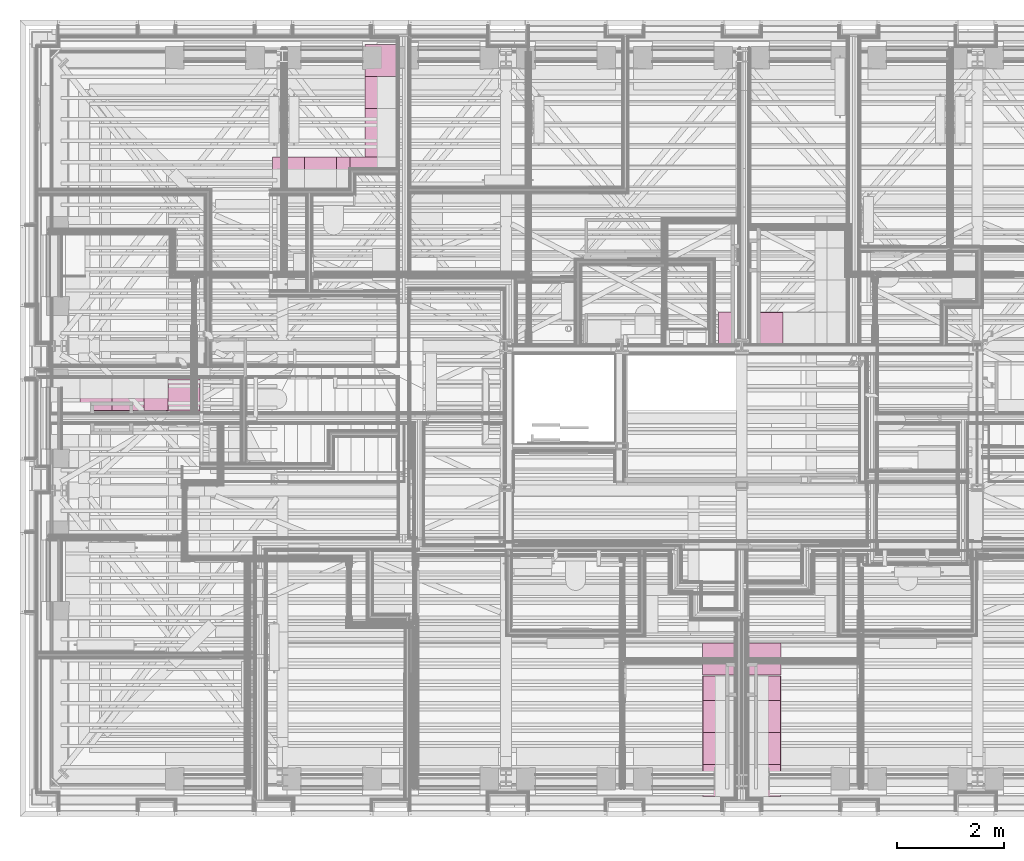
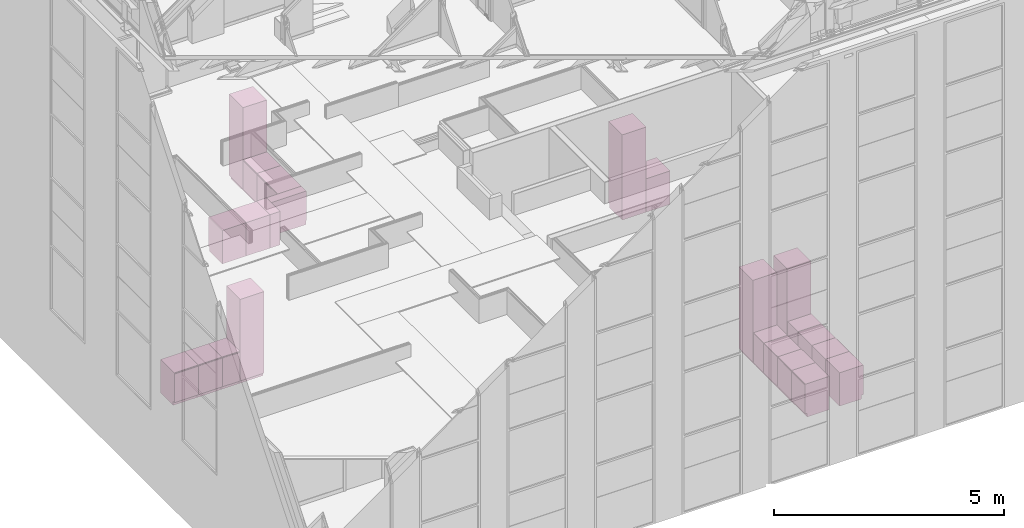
# One storey, part 181 of 183: 23 furnishings.
"""IFC2X3 building model written with IfcOpenShell, lengths in metres."""

from ifc_helpers import new_model, entity, si_unit, converted_unit, derived_unit, money_unit, direction, frame, origin_with_axes, place, context, subcontext, project, spatial, faceted_brep, material, type_object, element, save


model = new_model("IFC2X3")

# Units and contexts
model_context = context("Model", 3, precision=1e-05, world=origin_with_axes(), true_north=direction((0.0, 1.0)))
body_context = subcontext(model_context, "Body", "Model", "MODEL_VIEW", scale=1.0)
ifc_project = project(units=[si_unit("LENGTHUNIT", "METRE"), si_unit("AREAUNIT", "SQUARE_METRE"), si_unit("VOLUMEUNIT", "CUBIC_METRE"), si_unit("ABSORBEDDOSEUNIT", "GRAY"), si_unit("AMOUNTOFSUBSTANCEUNIT", "MOLE"), si_unit("DOSEEQUIVALENTUNIT", "SIEVERT"), si_unit("ELECTRICCAPACITANCEUNIT", "FARAD"), si_unit("ELECTRICCHARGEUNIT", "COULOMB"), si_unit("ELECTRICCONDUCTANCEUNIT", "SIEMENS"), si_unit("ELECTRICCURRENTUNIT", "AMPERE"), si_unit("ELECTRICRESISTANCEUNIT", "OHM"), si_unit("ELECTRICVOLTAGEUNIT", "VOLT"), si_unit("ENERGYUNIT", "JOULE"), si_unit("FORCEUNIT", "NEWTON"), si_unit("FREQUENCYUNIT", "HERTZ"), si_unit("ILLUMINANCEUNIT", "LUX"), si_unit("INDUCTANCEUNIT", "HENRY"), si_unit("LUMINOUSFLUXUNIT", "LUMEN"), si_unit("LUMINOUSINTENSITYUNIT", "CANDELA"), si_unit("MAGNETICFLUXDENSITYUNIT", "TESLA"), si_unit("MAGNETICFLUXUNIT", "WEBER"), si_unit("MASSUNIT", "GRAM"), converted_unit("PLANEANGLEUNIT", "degree", entity("IfcReal", 0.0174532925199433), si_unit("PLANEANGLEUNIT", "RADIAN"), dimensions=[0, 0, 0, 0, 0, 0, 0]), si_unit("POWERUNIT", "WATT"), si_unit("PRESSUREUNIT", "PASCAL"), si_unit("RADIOACTIVITYUNIT", "BECQUEREL"), si_unit("SOLIDANGLEUNIT", "STERADIAN"), si_unit("THERMODYNAMICTEMPERATUREUNIT", "KELVIN"), si_unit("TIMEUNIT", "SECOND"), derived_unit("ACCELERATIONUNIT", [(si_unit("LENGTHUNIT", "METRE"), 1), (si_unit("TIMEUNIT", "SECOND"), -2)]), derived_unit("ANGULARVELOCITYUNIT", [(converted_unit("PLANEANGLEUNIT", "degree", entity("IfcReal", 0.0174532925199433), si_unit("PLANEANGLEUNIT", "RADIAN"), dimensions=[0, 0, 0, 0, 0, 0, 0]), 1), (si_unit("TIMEUNIT", "SECOND"), -1)]), derived_unit("CURVATUREUNIT", [(converted_unit("PLANEANGLEUNIT", "degree", entity("IfcReal", 0.0174532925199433), si_unit("PLANEANGLEUNIT", "RADIAN"), dimensions=[0, 0, 0, 0, 0, 0, 0]), 1), (si_unit("LENGTHUNIT", "METRE"), -1)]), derived_unit("DYNAMICVISCOSITYUNIT", [(si_unit("PRESSUREUNIT", "PASCAL"), 1), (si_unit("TIMEUNIT", "SECOND"), 1)]), derived_unit("HEATFLUXDENSITYUNIT", [(si_unit("POWERUNIT", "WATT"), 1), (si_unit("LENGTHUNIT", "METRE"), -2)]), derived_unit("HEATINGVALUEUNIT", [(si_unit("ENERGYUNIT", "JOULE"), 1), (si_unit("MASSUNIT", "GRAM"), -1)]), derived_unit("INTEGERCOUNTRATEUNIT", [(si_unit("TIMEUNIT", "SECOND"), -1)]), derived_unit("IONCONCENTRATIONUNIT", [(si_unit("MASSUNIT", "GRAM"), 1), (si_unit("VOLUMEUNIT", "CUBIC_METRE"), -1)]), derived_unit("ISOTHERMALMOISTURECAPACITYUNIT", [(si_unit("VOLUMEUNIT", "CUBIC_METRE"), 1), (si_unit("MASSUNIT", "GRAM"), -1)]), derived_unit("KINEMATICVISCOSITYUNIT", [(si_unit("AREAUNIT", "SQUARE_METRE"), 1), (si_unit("TIMEUNIT", "SECOND"), -1)]), derived_unit("LINEARFORCEUNIT", [(si_unit("FORCEUNIT", "NEWTON"), 1), (si_unit("LENGTHUNIT", "METRE"), -1)]), derived_unit("LINEARMOMENTUNIT", [(si_unit("FORCEUNIT", "NEWTON"), 1), (si_unit("LENGTHUNIT", "METRE"), -1)]), derived_unit("LINEARSTIFFNESSUNIT", [(si_unit("FORCEUNIT", "NEWTON"), 1), (si_unit("LENGTHUNIT", "METRE"), -1)]), derived_unit("LINEARVELOCITYUNIT", [(si_unit("LENGTHUNIT", "METRE"), 1), (si_unit("TIMEUNIT", "SECOND"), -1)]), derived_unit("LUMINOUSINTENSITYDISTRIBUTIONUNIT", [(si_unit("LUMINOUSINTENSITYUNIT", "CANDELA"), 1), (si_unit("LUMINOUSFLUXUNIT", "LUMEN"), -1)]), derived_unit("MASSDENSITYUNIT", [(si_unit("MASSUNIT", "GRAM"), 1), (si_unit("VOLUMEUNIT", "CUBIC_METRE"), -1)]), derived_unit("MASSFLOWRATEUNIT", [(si_unit("MASSUNIT", "GRAM"), 1), (si_unit("TIMEUNIT", "SECOND"), -1)]), derived_unit("MASSPERLENGTHUNIT", [(si_unit("MASSUNIT", "GRAM"), 1), (si_unit("LENGTHUNIT", "METRE"), -1)]), derived_unit("MODULUSOFELASTICITYUNIT", [(si_unit("FORCEUNIT", "NEWTON"), 1), (si_unit("AREAUNIT", "SQUARE_METRE"), -1)]), derived_unit("MODULUSOFLINEARSUBGRADEREACTIONUNIT", [(si_unit("FORCEUNIT", "NEWTON"), 1), (si_unit("LENGTHUNIT", "METRE"), -2)]), derived_unit("MODULUSOFROTATIONALSUBGRADEREACTIONUNIT", [(si_unit("FORCEUNIT", "NEWTON"), 1), (si_unit("LENGTHUNIT", "METRE"), 1)]), derived_unit("MODULUSOFSUBGRADEREACTIONUNIT", [(si_unit("FORCEUNIT", "NEWTON"), 1), (si_unit("VOLUMEUNIT", "CUBIC_METRE"), -1)]), derived_unit("MOISTUREDIFFUSIVITYUNIT", [(si_unit("VOLUMEUNIT", "CUBIC_METRE"), 1), (si_unit("TIMEUNIT", "SECOND"), -1)]), derived_unit("MOLECULARWEIGHTUNIT", [(si_unit("MASSUNIT", "GRAM"), 1), (si_unit("AMOUNTOFSUBSTANCEUNIT", "MOLE"), -1)]), derived_unit("PLANARFORCEUNIT", [(si_unit("FORCEUNIT", "NEWTON"), 1), (si_unit("LENGTHUNIT", "METRE"), -2)]), derived_unit("ROTATIONALFREQUENCYUNIT", [(si_unit("TIMEUNIT", "SECOND"), -1)]), derived_unit("ROTATIONALMASSUNIT", [(si_unit("MASSUNIT", "GRAM"), 1), (si_unit("LENGTHUNIT", "METRE"), 2)]), derived_unit("ROTATIONALSTIFFNESSUNIT", [(si_unit("FORCEUNIT", "NEWTON"), 1), (si_unit("LENGTHUNIT", "METRE"), 1), (converted_unit("PLANEANGLEUNIT", "degree", entity("IfcReal", 0.0174532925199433), si_unit("PLANEANGLEUNIT", "RADIAN"), dimensions=[0, 0, 0, 0, 0, 0, 0]), -1)]), derived_unit("SECTIONAREAINTEGRALUNIT", [(si_unit("LENGTHUNIT", "METRE"), 5)]), derived_unit("SECTIONMODULUSUNIT", [(si_unit("LENGTHUNIT", "METRE"), 3)]), derived_unit("SHEARMODULUSUNIT", [(si_unit("FORCEUNIT", "NEWTON"), 1), (si_unit("AREAUNIT", "SQUARE_METRE"), -1)]), derived_unit("SOUNDPOWERUNIT", [(si_unit("ENERGYUNIT", "JOULE"), 1), (si_unit("TIMEUNIT", "SECOND"), -1)]), derived_unit("SPECIFICHEATCAPACITYUNIT", [(si_unit("FORCEUNIT", "NEWTON"), 1), (si_unit("MASSUNIT", "GRAM"), -1), (si_unit("THERMODYNAMICTEMPERATUREUNIT", "KELVIN"), -1)]), derived_unit("TEMPERATUREGRADIENTUNIT", [(si_unit("THERMODYNAMICTEMPERATUREUNIT", "KELVIN"), 1), (si_unit("LENGTHUNIT", "METRE"), -1)]), derived_unit("THERMALADMITTANCEUNIT", [(si_unit("POWERUNIT", "WATT"), 1), (si_unit("AREAUNIT", "SQUARE_METRE"), -1), (si_unit("THERMODYNAMICTEMPERATUREUNIT", "KELVIN"), -1)]), derived_unit("THERMALCONDUCTANCEUNIT", [(si_unit("POWERUNIT", "WATT"), 1), (si_unit("LENGTHUNIT", "METRE"), -1), (si_unit("THERMODYNAMICTEMPERATUREUNIT", "KELVIN"), -1)]), derived_unit("THERMALEXPANSIONCOEFFICIENTUNIT", [(si_unit("THERMODYNAMICTEMPERATUREUNIT", "KELVIN"), -1)]), derived_unit("THERMALRESISTANCEUNIT", [(si_unit("AREAUNIT", "SQUARE_METRE"), 1), (si_unit("POWERUNIT", "WATT"), -1)]), derived_unit("THERMALTRANSMITTANCEUNIT", [(si_unit("POWERUNIT", "WATT"), 1), (si_unit("AREAUNIT", "SQUARE_METRE"), -1), (si_unit("THERMODYNAMICTEMPERATUREUNIT", "KELVIN"), -1)]), derived_unit("TORQUEUNIT", [(si_unit("FORCEUNIT", "NEWTON"), 1), (si_unit("LENGTHUNIT", "METRE"), 1)]), derived_unit("VAPORPERMEABILITYUNIT", [(si_unit("MASSUNIT", "GRAM"), 1), (si_unit("TIMEUNIT", "SECOND"), -1)]), derived_unit("VOLUMETRICFLOWRATEUNIT", [(si_unit("VOLUMEUNIT", "CUBIC_METRE"), 1), (si_unit("TIMEUNIT", "SECOND"), -1)]), derived_unit("WARPINGCONSTANTUNIT", [(si_unit("LENGTHUNIT", "METRE"), 6)]), derived_unit("WARPINGMOMENTUNIT", [(si_unit("FORCEUNIT", "NEWTON"), 1), (si_unit("LENGTHUNIT", "METRE"), 2)]), money_unit("GBP")], contexts=[model_context])

# Site, building, storey, space
site_placement = place(None, origin_with_axes())
site = spatial("IfcSite", under=ifc_project, at=site_placement, Name="Site", CompositionType="ELEMENT")
building_placement = place(site_placement, origin_with_axes())
building = spatial("IfcBuilding", under=site, at=building_placement, Name="Building01", CompositionType="ELEMENT")
storey_placement = place(building_placement, frame((0.0, 0.0, 5.15), z_axis=(0.0, 0.0, 1.0), x_axis=(1.0, 0.0, 0.0)))
storey = spatial("IfcBuildingStorey", under=building, at=storey_placement, Name="1F", CompositionType="ELEMENT", Elevation=5.15)
space_1_placement = place(storey_placement, frame((7.064669, 7.111475, 0.017975), z_axis=(0.0, 0.0, 1.0), x_axis=(-1.0, 0.0, 0.0)))
space_1 = spatial("IfcSpace", under=storey, at=space_1_placement, Name="k/d/l", CompositionType="ELEMENT", InteriorOrExteriorSpace="NOTDEFINED")

# Furnishing
ifc_material = material(Name="A_BSUK_StorageScreening_Ffe")
furniture_type_1 = type_object("IfcFurnitureType", Name="SHE_A-Kitchenunit-Tall")
placement = place(storey_placement, frame((0.0, 0.0, -5.15), z_axis=(0.0, 0.0, 1.0), x_axis=(1.0, 0.0, 0.0)))
element("IfcFurnishingElement", 1, at=placement, inside=space_1, type_object=furniture_type_1, material=ifc_material, Name="06", ObjectType="SHE_A-Kitchenunit-Tall", context=body_context, shape_type="Brep", body=[
    faceted_brep([(2.77073, 8.18817, 7.414), (3.37073, 8.18817, 7.414), (3.37073, 8.18817, 5.154), (2.77073, 8.18817, 5.154), (3.37073, 7.58817, 7.414), (3.37073, 7.58817, 5.254), (3.37073, 7.63817, 5.254), (3.37073, 7.63817, 5.154), (2.77073, 7.63817, 5.254), (2.77073, 7.63817, 5.154), (2.77073, 7.58817, 5.254), (2.77073, 7.58817, 7.414)], [[[0, 1, 2, 3]], [[1, 4, 5, 6, 7, 2]], [[8, 9, 7, 6]], [[8, 10, 11, 0, 3, 9]], [[2, 7, 9, 3]], [[5, 4, 11, 10]], [[11, 4, 1, 0]], [[6, 5, 10, 8]]]),
])

# Space
space_2_placement = place(storey_placement, frame((11.375, 10.415, 0.017975), z_axis=(0.0, 0.0, 1.0), x_axis=(1.0, 0.0, 0.0)))
space_2 = spatial("IfcSpace", under=storey, at=space_2_placement, Name="k/d/l", CompositionType="ELEMENT", InteriorOrExteriorSpace="NOTDEFINED")

# Furnishing
element("IfcFurnishingElement", 2, at=placement, inside=space_2, type_object=furniture_type_1, material=ifc_material, Name="08", ObjectType="SHE_A-Kitchenunit-Tall", context=body_context, shape_type="Brep", body=[
    faceted_brep([(13.668132, 8.835, 7.414), (13.068132, 8.835, 7.414), (13.068132, 8.835, 5.154), (13.668132, 8.835, 5.154), (13.068132, 9.435, 7.414), (13.068132, 9.435, 5.254), (13.068132, 9.385, 5.254), (13.068132, 9.385, 5.154), (13.668132, 9.385, 5.254), (13.668132, 9.385, 5.154), (13.668132, 9.435, 5.254), (13.668132, 9.435, 7.414)], [[[0, 1, 2, 3]], [[1, 4, 5, 6, 7, 2]], [[8, 9, 7, 6]], [[8, 10, 11, 0, 3, 9]], [[2, 7, 9, 3]], [[5, 4, 11, 10]], [[11, 4, 1, 0]], [[6, 5, 10, 8]]]),
])

# Space
space_3_placement = place(storey_placement, frame((17.9025, 3.385, 0.017975), z_axis=(0.0, 0.0, 1.0), x_axis=(-1.0, 0.0, 0.0)))
space_3 = spatial("IfcSpace", under=storey, at=space_3_placement, Name="k/d/l", CompositionType="ELEMENT", InteriorOrExteriorSpace="NOTDEFINED")

# Furnishing
element("IfcFurnishingElement", 3, at=placement, inside=space_3, type_object=furniture_type_1, material=ifc_material, Name="04", ObjectType="SHE_A-Kitchenunit-Tall", context=body_context, shape_type="Brep", body=[
    faceted_brep([(13.631, 3.245001, 5.154), (13.631, 2.645001, 5.154), (13.631, 2.645001, 7.414), (13.631, 3.245001, 7.414), (14.181, 2.645001, 5.154), (14.181, 2.645001, 5.254), (14.231, 2.645001, 5.254), (14.231, 2.645001, 7.414), (14.181, 3.245001, 5.154), (14.181, 3.245001, 5.254), (14.231, 3.245001, 7.414), (14.231, 3.245001, 5.254)], [[[0, 1, 2, 3]], [[1, 4, 5, 6, 7, 2]], [[5, 4, 8, 9]], [[8, 0, 3, 10, 11, 9]], [[0, 8, 4, 1]], [[11, 10, 7, 6]], [[3, 2, 7, 10]], [[9, 11, 6, 5]]]),
])

# Space
space_4_placement = place(storey_placement, frame((12.15, 4.98, 0.017975), z_axis=(0.0, 0.0, 1.0), x_axis=(-1.0, 0.0, 0.0)))
space_4 = spatial("IfcSpace", under=storey, at=space_4_placement, Name="05", CompositionType="ELEMENT", InteriorOrExteriorSpace="NOTDEFINED")

# Furnishing
element("IfcFurnishingElement", 4, at=placement, inside=space_4, type_object=furniture_type_1, material=ifc_material, Name="05", ObjectType="SHE_A-Kitchenunit-Tall", context=body_context, shape_type="Brep", body=[
    faceted_brep([(13.369, 3.245001, 7.414), (13.369, 2.645001, 7.414), (13.369, 2.645001, 5.154), (13.369, 3.245001, 5.154), (12.769, 2.645001, 7.414), (12.769, 2.645001, 5.254), (12.819, 2.645001, 5.254), (12.819, 2.645001, 5.154), (12.819, 3.245001, 5.254), (12.819, 3.245001, 5.154), (12.769, 3.245001, 5.254), (12.769, 3.245001, 7.414)], [[[0, 1, 2, 3]], [[1, 4, 5, 6, 7, 2]], [[8, 9, 7, 6]], [[8, 10, 11, 0, 3, 9]], [[2, 7, 9, 3]], [[5, 4, 11, 10]], [[11, 4, 1, 0]], [[6, 5, 10, 8]]]),
])

# Space
space_5_placement = place(storey_placement, frame((0.318, 11.72567, 0.017975), z_axis=(0.0, 0.0, 1.0), x_axis=(1.0, 0.0, 0.0)))
space_5 = spatial("IfcSpace", under=storey, at=space_5_placement, Name="k/d/l", CompositionType="ELEMENT", InteriorOrExteriorSpace="NOTDEFINED")

# Furnishing
element("IfcFurnishingElement", 5, at=placement, inside=space_5, type_object=furniture_type_1, material=ifc_material, Name="07", ObjectType="SHE_A-Kitchenunit-Tall", context=body_context, shape_type="Brep", body=[
    faceted_brep([(7.049669, 13.84067, 5.154), (7.049669, 14.44067, 5.154), (7.049669, 14.44067, 7.414), (7.049669, 13.84067, 7.414), (6.499669, 14.44067, 5.154), (6.499669, 14.44067, 5.254), (6.449669, 14.44067, 5.254), (6.449669, 14.44067, 7.414), (6.499669, 13.84067, 5.154), (6.499669, 13.84067, 5.254), (6.449669, 13.84067, 7.414), (6.449669, 13.84067, 5.254)], [[[0, 1, 2, 3]], [[1, 4, 5, 6, 7, 2]], [[5, 4, 8, 9]], [[8, 0, 3, 10, 11, 9]], [[0, 8, 4, 1]], [[11, 10, 7, 6]], [[3, 2, 7, 10]], [[9, 11, 6, 5]]]),
])

# Space
space_6_placement = place(storey_placement, frame((0.318, 8.21067, 0.017975), z_axis=(0.0, 0.0, 1.0), x_axis=(0.0, -1.0, 0.0)))
space_6 = spatial("IfcSpace", under=storey, at=space_6_placement, Name="06", CompositionType="ELEMENT", InteriorOrExteriorSpace="NOTDEFINED")

# Furnishings
furniture_type_2 = type_object("IfcFurnitureType", Name="SHE_A-Kitchenunit-Base")
element("IfcFurnishingElement", 6, at=placement, inside=space_6, type_object=furniture_type_2, material=ifc_material, Name="06", ObjectType="SHE_A-Kitchenunit-Base", context=body_context, shape_type="Brep", body=[
    faceted_brep([(1.72073, 8.18817, 6.039), (2.32073, 8.18817, 6.039), (2.32073, 8.18817, 5.154), (1.72073, 8.18817, 5.154), (2.32073, 7.595241, 6.039), (2.32073, 7.58817, 6.031929), (2.32073, 7.58817, 6.021071), (2.32073, 7.595241, 6.014), (2.32073, 7.58817, 6.014), (2.32073, 7.58817, 5.254), (2.32073, 7.63817, 5.254), (2.32073, 7.63817, 5.154), (1.72073, 7.63817, 5.254), (1.72073, 7.63817, 5.154), (1.72073, 7.58817, 5.254), (1.72073, 7.58817, 6.014), (1.72073, 7.595241, 6.014), (1.72073, 7.58817, 6.021071), (1.72073, 7.58817, 6.031929), (1.72073, 7.595241, 6.039)], [[[0, 1, 2, 3]], [[1, 4, 5, 6, 7, 8, 9, 10, 11, 2]], [[12, 13, 11, 10]], [[12, 14, 15, 16, 17, 18, 19, 0, 3, 13]], [[2, 11, 13, 3]], [[7, 16, 15, 8]], [[9, 8, 15, 14]], [[10, 9, 14, 12]], [[5, 18, 17, 6]], [[19, 4, 1, 0]], [[6, 17, 16, 7]], [[4, 19, 18, 5]]]),
])
element("IfcFurnishingElement", 7, at=placement, inside=space_6, type_object=furniture_type_2, material=ifc_material, Name="06", ObjectType="SHE_A-Kitchenunit-Base", context=body_context, shape_type="Brep", body=[
    faceted_brep([(1.12073, 8.18817, 6.039), (1.72073, 8.18817, 6.039), (1.72073, 8.18817, 5.154), (1.12073, 8.18817, 5.154), (1.72073, 7.595241, 6.039), (1.72073, 7.58817, 6.031929), (1.72073, 7.58817, 6.021071), (1.72073, 7.595241, 6.014), (1.72073, 7.58817, 6.014), (1.72073, 7.58817, 5.254), (1.72073, 7.63817, 5.254), (1.72073, 7.63817, 5.154), (1.12073, 7.63817, 5.254), (1.12073, 7.63817, 5.154), (1.12073, 7.58817, 5.254), (1.12073, 7.58817, 6.014), (1.12073, 7.595241, 6.014), (1.12073, 7.58817, 6.021071), (1.12073, 7.58817, 6.031929), (1.12073, 7.595241, 6.039)], [[[0, 1, 2, 3]], [[1, 4, 5, 6, 7, 8, 9, 10, 11, 2]], [[12, 13, 11, 10]], [[12, 14, 15, 16, 17, 18, 19, 0, 3, 13]], [[2, 11, 13, 3]], [[7, 16, 15, 8]], [[9, 8, 15, 14]], [[10, 9, 14, 12]], [[5, 18, 17, 6]], [[19, 4, 1, 0]], [[6, 17, 16, 7]], [[4, 19, 18, 5]]]),
])

# Space
space_7_placement = place(storey_placement, frame((7.289669, 14.582, 0.017975), z_axis=(0.0, 0.0, 1.0), x_axis=(0.0, -1.0, 0.0)))
space_7 = spatial("IfcSpace", under=storey, at=space_7_placement, Name="08", CompositionType="ELEMENT", InteriorOrExteriorSpace="NOTDEFINED")

# Furnishings
element("IfcFurnishingElement", 8, at=placement, inside=space_7, type_object=furniture_type_2, material=ifc_material, Name="08", ObjectType="SHE_A-Kitchenunit-Base", context=body_context, shape_type="Brep", body=[
    faceted_brep([(14.268132, 8.835, 6.039), (13.668132, 8.835, 6.039), (13.668132, 8.835, 5.154), (14.268132, 8.835, 5.154), (13.668132, 9.427929, 6.039), (13.668132, 9.435, 6.031929), (13.668132, 9.435, 6.021071), (13.668132, 9.427929, 6.014), (13.668132, 9.435, 6.014), (13.668132, 9.435, 5.254), (13.668132, 9.385, 5.254), (13.668132, 9.385, 5.154), (14.268132, 9.385, 5.254), (14.268132, 9.385, 5.154), (14.268132, 9.435, 5.254), (14.268132, 9.435, 6.014), (14.268132, 9.427929, 6.014), (14.268132, 9.435, 6.021071), (14.268132, 9.435, 6.031929), (14.268132, 9.427929, 6.039)], [[[0, 1, 2, 3]], [[1, 4, 5, 6, 7, 8, 9, 10, 11, 2]], [[12, 13, 11, 10]], [[12, 14, 15, 16, 17, 18, 19, 0, 3, 13]], [[2, 11, 13, 3]], [[7, 16, 15, 8]], [[9, 8, 15, 14]], [[10, 9, 14, 12]], [[5, 18, 17, 6]], [[19, 4, 1, 0]], [[6, 17, 16, 7]], [[4, 19, 18, 5]]]),
])
element("IfcFurnishingElement", 9, at=placement, inside=space_3, type_object=furniture_type_2, material=ifc_material, Name="04", ObjectType="SHE_A-Kitchenunit-Base", context=body_context, shape_type="Brep", body=[
    faceted_brep([(13.631, 2.175001, 5.154), (13.631, 1.575001, 5.154), (13.631, 1.575001, 6.039), (13.631, 2.175001, 6.039), (14.181, 1.575001, 5.154), (14.181, 1.575001, 5.254), (14.231, 1.575001, 5.254), (14.231, 1.575001, 6.014), (14.223929, 1.575001, 6.014), (14.231, 1.575001, 6.021071), (14.231, 1.575001, 6.031929), (14.223929, 1.575001, 6.039), (14.181, 2.175001, 5.154), (14.181, 2.175001, 5.254), (14.223929, 2.175001, 6.039), (14.231, 2.175001, 6.031929), (14.231, 2.175001, 6.021071), (14.223929, 2.175001, 6.014), (14.231, 2.175001, 6.014), (14.231, 2.175001, 5.254)], [[[0, 1, 2, 3]], [[1, 4, 5, 6, 7, 8, 9, 10, 11, 2]], [[5, 4, 12, 13]], [[12, 0, 3, 14, 15, 16, 17, 18, 19, 13]], [[0, 12, 4, 1]], [[7, 18, 17, 8]], [[19, 18, 7, 6]], [[13, 19, 6, 5]], [[9, 16, 15, 10]], [[3, 2, 11, 14]], [[8, 17, 16, 9]], [[10, 15, 14, 11]]]),
])
element("IfcFurnishingElement", 10, at=placement, inside=space_3, type_object=furniture_type_2, material=ifc_material, Name="04", ObjectType="SHE_A-Kitchenunit-Base", context=body_context, shape_type="Brep", body=[
    faceted_brep([(13.631, 1.575001, 5.154), (13.631, 0.975001, 5.154), (13.631, 0.975001, 6.039), (13.631, 1.575001, 6.039), (14.181, 0.975001, 5.154), (14.181, 0.975001, 5.254), (14.231, 0.975001, 5.254), (14.231, 0.975001, 6.014), (14.223929, 0.975001, 6.014), (14.231, 0.975001, 6.021071), (14.231, 0.975001, 6.031929), (14.223929, 0.975001, 6.039), (14.181, 1.575001, 5.154), (14.181, 1.575001, 5.254), (14.223929, 1.575001, 6.039), (14.231, 1.575001, 6.031929), (14.231, 1.575001, 6.021071), (14.223929, 1.575001, 6.014), (14.231, 1.575001, 6.014), (14.231, 1.575001, 5.254)], [[[0, 1, 2, 3]], [[1, 4, 5, 6, 7, 8, 9, 10, 11, 2]], [[5, 4, 12, 13]], [[12, 0, 3, 14, 15, 16, 17, 18, 19, 13]], [[0, 12, 4, 1]], [[7, 18, 17, 8]], [[19, 18, 7, 6]], [[13, 19, 6, 5]], [[9, 16, 15, 10]], [[3, 2, 11, 14]], [[8, 17, 16, 9]], [[10, 15, 14, 11]]]),
])
element("IfcFurnishingElement", 11, at=placement, inside=space_3, type_object=furniture_type_2, material=ifc_material, Name="04", ObjectType="SHE_A-Kitchenunit-Base", context=body_context, shape_type="Brep", body=[
    faceted_brep([(13.631, 0.975001, 5.154), (13.631, 0.375001, 5.154), (13.631, 0.375001, 6.039), (13.631, 0.975001, 6.039), (14.181, 0.375001, 5.154), (14.181, 0.375001, 5.254), (14.231, 0.375001, 5.254), (14.231, 0.375001, 6.014), (14.223929, 0.375001, 6.014), (14.231, 0.375001, 6.021071), (14.231, 0.375001, 6.031929), (14.223929, 0.375001, 6.039), (14.181, 0.975001, 5.154), (14.181, 0.975001, 5.254), (14.223929, 0.975001, 6.039), (14.231, 0.975001, 6.031929), (14.231, 0.975001, 6.021071), (14.223929, 0.975001, 6.014), (14.231, 0.975001, 6.014), (14.231, 0.975001, 5.254)], [[[0, 1, 2, 3]], [[1, 4, 5, 6, 7, 8, 9, 10, 11, 2]], [[5, 4, 12, 13]], [[12, 0, 3, 14, 15, 16, 17, 18, 19, 13]], [[0, 12, 4, 1]], [[7, 18, 17, 8]], [[19, 18, 7, 6]], [[13, 19, 6, 5]], [[9, 16, 15, 10]], [[3, 2, 11, 14]], [[8, 17, 16, 9]], [[10, 15, 14, 11]]]),
])
element("IfcFurnishingElement", 12, at=placement, inside=space_4, type_object=furniture_type_2, material=ifc_material, Name="05", ObjectType="SHE_A-Kitchenunit-Base", context=body_context, shape_type="Brep", body=[
    faceted_brep([(13.369, 1.575001, 6.039), (13.369, 0.975001, 6.039), (13.369, 0.975001, 5.154), (13.369, 1.575001, 5.154), (12.776071, 0.975001, 6.039), (12.769, 0.975001, 6.031929), (12.769, 0.975001, 6.021071), (12.776071, 0.975001, 6.014), (12.769, 0.975001, 6.014), (12.769, 0.975001, 5.254), (12.819, 0.975001, 5.254), (12.819, 0.975001, 5.154), (12.819, 1.575001, 5.254), (12.819, 1.575001, 5.154), (12.769, 1.575001, 5.254), (12.769, 1.575001, 6.014), (12.776071, 1.575001, 6.014), (12.769, 1.575001, 6.021071), (12.769, 1.575001, 6.031929), (12.776071, 1.575001, 6.039)], [[[0, 1, 2, 3]], [[1, 4, 5, 6, 7, 8, 9, 10, 11, 2]], [[12, 13, 11, 10]], [[12, 14, 15, 16, 17, 18, 19, 0, 3, 13]], [[2, 11, 13, 3]], [[7, 16, 15, 8]], [[9, 8, 15, 14]], [[10, 9, 14, 12]], [[5, 18, 17, 6]], [[19, 4, 1, 0]], [[6, 17, 16, 7]], [[4, 19, 18, 5]]]),
])
element("IfcFurnishingElement", 13, at=placement, inside=space_4, type_object=furniture_type_2, material=ifc_material, Name="05", ObjectType="SHE_A-Kitchenunit-Base", context=body_context, shape_type="Brep", body=[
    faceted_brep([(13.369, 0.975001, 6.039), (13.369, 0.375001, 6.039), (13.369, 0.375001, 5.154), (13.369, 0.975001, 5.154), (12.776071, 0.375001, 6.039), (12.769, 0.375001, 6.031929), (12.769, 0.375001, 6.021071), (12.776071, 0.375001, 6.014), (12.769, 0.375001, 6.014), (12.769, 0.375001, 5.254), (12.819, 0.375001, 5.254), (12.819, 0.375001, 5.154), (12.819, 0.975001, 5.254), (12.819, 0.975001, 5.154), (12.769, 0.975001, 5.254), (12.769, 0.975001, 6.014), (12.776071, 0.975001, 6.014), (12.769, 0.975001, 6.021071), (12.769, 0.975001, 6.031929), (12.776071, 0.975001, 6.039)], [[[0, 1, 2, 3]], [[1, 4, 5, 6, 7, 8, 9, 10, 11, 2]], [[12, 13, 11, 10]], [[12, 14, 15, 16, 17, 18, 19, 0, 3, 13]], [[2, 11, 13, 3]], [[7, 16, 15, 8]], [[9, 8, 15, 14]], [[10, 9, 14, 12]], [[5, 18, 17, 6]], [[19, 4, 1, 0]], [[6, 17, 16, 7]], [[4, 19, 18, 5]]]),
])
element("IfcFurnishingElement", 14, at=placement, inside=space_4, type_object=furniture_type_2, material=ifc_material, Name="05", ObjectType="SHE_A-Kitchenunit-Base", context=body_context, shape_type="Brep", body=[
    faceted_brep([(13.369, 2.175001, 6.039), (13.369, 1.575001, 6.039), (13.369, 1.575001, 5.154), (13.369, 2.175001, 5.154), (12.776071, 1.575001, 6.039), (12.769, 1.575001, 6.031929), (12.769, 1.575001, 6.021071), (12.776071, 1.575001, 6.014), (12.769, 1.575001, 6.014), (12.769, 1.575001, 5.254), (12.819, 1.575001, 5.254), (12.819, 1.575001, 5.154), (12.819, 2.175001, 5.254), (12.819, 2.175001, 5.154), (12.769, 2.175001, 5.254), (12.769, 2.175001, 6.014), (12.776071, 2.175001, 6.014), (12.769, 2.175001, 6.021071), (12.769, 2.175001, 6.031929), (12.776071, 2.175001, 6.039)], [[[0, 1, 2, 3]], [[1, 4, 5, 6, 7, 8, 9, 10, 11, 2]], [[12, 13, 11, 10]], [[12, 14, 15, 16, 17, 18, 19, 0, 3, 13]], [[2, 11, 13, 3]], [[7, 16, 15, 8]], [[9, 8, 15, 14]], [[10, 9, 14, 12]], [[5, 18, 17, 6]], [[19, 4, 1, 0]], [[6, 17, 16, 7]], [[4, 19, 18, 5]]]),
])
element("IfcFurnishingElement", 15, at=placement, inside=space_5, type_object=furniture_type_2, material=ifc_material, Name="07", ObjectType="SHE_A-Kitchenunit-Base", context=body_context, shape_type="Brep", body=[
    faceted_brep([(7.049669, 13.24067, 5.154), (7.049669, 13.84067, 5.154), (7.049669, 13.84067, 6.039), (7.049669, 13.24067, 6.039), (6.499669, 13.84067, 5.154), (6.499669, 13.84067, 5.254), (6.449669, 13.84067, 5.254), (6.449669, 13.84067, 6.014), (6.45674, 13.84067, 6.014), (6.449669, 13.84067, 6.021071), (6.449669, 13.84067, 6.031929), (6.45674, 13.84067, 6.039), (6.499669, 13.24067, 5.154), (6.499669, 13.24067, 5.254), (6.45674, 13.24067, 6.039), (6.449669, 13.24067, 6.031929), (6.449669, 13.24067, 6.021071), (6.45674, 13.24067, 6.014), (6.449669, 13.24067, 6.014), (6.449669, 13.24067, 5.254)], [[[0, 1, 2, 3]], [[1, 4, 5, 6, 7, 8, 9, 10, 11, 2]], [[5, 4, 12, 13]], [[12, 0, 3, 14, 15, 16, 17, 18, 19, 13]], [[0, 12, 4, 1]], [[7, 18, 17, 8]], [[19, 18, 7, 6]], [[13, 19, 6, 5]], [[9, 16, 15, 10]], [[3, 2, 11, 14]], [[8, 17, 16, 9]], [[10, 15, 14, 11]]]),
])
element("IfcFurnishingElement", 16, at=placement, inside=space_5, type_object=furniture_type_2, material=ifc_material, Name="07", ObjectType="SHE_A-Kitchenunit-Base", context=body_context, shape_type="Brep", body=[
    faceted_brep([(4.719669, 11.74067, 5.154), (5.319669, 11.74067, 5.154), (5.319669, 11.74067, 6.039), (4.719669, 11.74067, 6.039), (5.319669, 12.29067, 5.154), (5.319669, 12.29067, 5.254), (5.319669, 12.34067, 5.254), (5.319669, 12.34067, 6.014), (5.319669, 12.333599, 6.014), (5.319669, 12.34067, 6.021071), (5.319669, 12.34067, 6.031929), (5.319669, 12.333599, 6.039), (4.719669, 12.29067, 5.154), (4.719669, 12.29067, 5.254), (4.719669, 12.333599, 6.039), (4.719669, 12.34067, 6.031929), (4.719669, 12.34067, 6.021071), (4.719669, 12.333599, 6.014), (4.719669, 12.34067, 6.014), (4.719669, 12.34067, 5.254)], [[[0, 1, 2, 3]], [[1, 4, 5, 6, 7, 8, 9, 10, 11, 2]], [[5, 4, 12, 13]], [[12, 0, 3, 14, 15, 16, 17, 18, 19, 13]], [[0, 12, 4, 1]], [[7, 18, 17, 8]], [[19, 18, 7, 6]], [[13, 19, 6, 5]], [[9, 16, 15, 10]], [[3, 2, 11, 14]], [[8, 17, 16, 9]], [[10, 15, 14, 11]]]),
])

# Space
space_8_placement = place(storey_placement, frame((7.064669, 14.582, 0.017975), z_axis=(0.0, 0.0, 1.0), x_axis=(-1.0, 0.0, 0.0)))
space_8 = spatial("IfcSpace", under=storey, at=space_8_placement, Name="07", CompositionType="ELEMENT", InteriorOrExteriorSpace="NOTDEFINED")

# Furnishings
element("IfcFurnishingElement", 17, at=placement, inside=space_8, type_object=furniture_type_2, material=ifc_material, Name="07", ObjectType="SHE_A-Kitchenunit-Base", context=body_context, shape_type="Brep", body=[
    faceted_brep([(7.049669, 12.34067, 5.154), (7.049669, 13.24067, 5.154), (7.049669, 13.24067, 6.039), (7.049669, 12.34067, 6.039), (6.499669, 13.24067, 5.154), (6.499669, 13.24067, 5.254), (6.449669, 13.24067, 5.254), (6.449669, 13.24067, 6.014), (6.45674, 13.24067, 6.014), (6.449669, 13.24067, 6.021071), (6.449669, 13.24067, 6.031929), (6.45674, 13.24067, 6.039), (6.499669, 12.34067, 5.154), (6.499669, 12.34067, 5.254), (6.45674, 12.34067, 6.039), (6.449669, 12.34067, 6.031929), (6.449669, 12.34067, 6.021071), (6.45674, 12.34067, 6.014), (6.449669, 12.34067, 6.014), (6.449669, 12.34067, 5.254)], [[[0, 1, 2, 3]], [[1, 4, 5, 6, 7, 8, 9, 10, 11, 2]], [[5, 4, 12, 13]], [[12, 0, 3, 14, 15, 16, 17, 18, 19, 13]], [[0, 12, 4, 1]], [[7, 18, 17, 8]], [[19, 18, 7, 6]], [[13, 19, 6, 5]], [[9, 16, 15, 10]], [[3, 2, 11, 14]], [[8, 17, 16, 9]], [[10, 15, 14, 11]]]),
])
element("IfcFurnishingElement", 18, at=placement, inside=space_5, type_object=furniture_type_2, material=ifc_material, Name="07", ObjectType="SHE_A-Kitchenunit-Base", context=body_context, shape_type="Brep", body=[
    faceted_brep([(5.319669, 11.74067, 5.154), (5.919669, 11.74067, 5.154), (5.919669, 11.74067, 6.039), (5.319669, 11.74067, 6.039), (5.919669, 12.29067, 5.154), (5.919669, 12.29067, 5.254), (5.919669, 12.34067, 5.254), (5.919669, 12.34067, 6.014), (5.919669, 12.333599, 6.014), (5.919669, 12.34067, 6.021071), (5.919669, 12.34067, 6.031929), (5.919669, 12.333599, 6.039), (5.319669, 12.29067, 5.154), (5.319669, 12.29067, 5.254), (5.319669, 12.333599, 6.039), (5.319669, 12.34067, 6.031929), (5.319669, 12.34067, 6.021071), (5.319669, 12.333599, 6.014), (5.319669, 12.34067, 6.014), (5.319669, 12.34067, 5.254)], [[[0, 1, 2, 3]], [[1, 4, 5, 6, 7, 8, 9, 10, 11, 2]], [[5, 4, 12, 13]], [[12, 0, 3, 14, 15, 16, 17, 18, 19, 13]], [[0, 12, 4, 1]], [[7, 18, 17, 8]], [[19, 18, 7, 6]], [[13, 19, 6, 5]], [[9, 16, 15, 10]], [[3, 2, 11, 14]], [[8, 17, 16, 9]], [[10, 15, 14, 11]]]),
])
element("IfcFurnishingElement", 19, at=placement, inside=space_5, type_object=furniture_type_2, material=ifc_material, Name="07", ObjectType="SHE_A-Kitchenunit-Base", context=body_context, shape_type="Brep", body=[
    faceted_brep([(5.919669, 11.74067, 5.154), (6.169669, 11.74067, 5.154), (6.169669, 11.74067, 6.039), (5.919669, 11.74067, 6.039), (6.169669, 12.29067, 5.154), (6.169669, 12.29067, 5.254), (6.169669, 12.34067, 5.254), (6.169669, 12.34067, 6.014), (6.169669, 12.337724, 6.014), (6.169669, 12.34067, 6.016946), (6.169669, 12.34067, 6.036054), (6.169669, 12.337724, 6.039), (5.919669, 12.29067, 5.154), (5.919669, 12.29067, 5.254), (5.919669, 12.337724, 6.039), (5.919669, 12.34067, 6.036054), (5.919669, 12.34067, 6.016946), (5.919669, 12.337724, 6.014), (5.919669, 12.34067, 6.014), (5.919669, 12.34067, 5.254)], [[[0, 1, 2, 3]], [[1, 4, 5, 6, 7, 8, 9, 10, 11, 2]], [[5, 4, 12, 13]], [[12, 0, 3, 14, 15, 16, 17, 18, 19, 13]], [[0, 12, 4, 1]], [[7, 18, 17, 8]], [[19, 18, 7, 6]], [[13, 19, 6, 5]], [[9, 16, 15, 10]], [[3, 2, 11, 14]], [[8, 17, 16, 9]], [[10, 15, 14, 11]]]),
])
element("IfcFurnishingElement", 20, at=placement, inside=space_5, type_object=furniture_type_2, material=ifc_material, Name="07", ObjectType="SHE_A-Kitchenunit-Base", context=body_context, shape_type="Brep", body=[
    faceted_brep([(6.169669, 12.12567, 5.154), (7.039792, 12.12567, 5.154), (7.039792, 12.12567, 5.254), (7.049669, 12.12567, 5.254), (7.049669, 12.12567, 6.039), (6.169669, 12.12567, 6.039), (7.039792, 12.29067, 5.154), (7.039792, 12.29067, 5.254), (6.169669, 12.29067, 5.154), (6.169669, 12.29067, 5.254), (6.169669, 12.337724, 6.039), (6.169669, 12.34067, 6.036054), (6.169669, 12.34067, 6.016946), (6.169669, 12.337724, 6.014), (6.169669, 12.34067, 6.014), (6.169669, 12.34067, 5.254), (7.049669, 12.34067, 6.014), (7.049669, 12.337724, 6.014), (7.049669, 12.34067, 5.254), (7.049669, 12.34067, 6.016946), (7.049669, 12.34067, 6.036054), (7.049669, 12.337724, 6.039)], [[[0, 1, 2, 3, 4, 5]], [[2, 1, 6, 7]], [[7, 6, 8, 9]], [[8, 0, 5, 10, 11, 12, 13, 14, 15, 9]], [[0, 8, 6, 1]], [[16, 14, 13, 17]], [[15, 14, 16, 18]], [[18, 16, 17, 19, 20, 21, 4, 3]], [[9, 15, 18, 3, 2, 7]], [[19, 12, 11, 20]], [[5, 4, 21, 10]], [[17, 13, 12, 19]], [[20, 11, 10, 21]]]),
])
furniture_type_3 = type_object("IfcFurnitureType", Name="SHE_A-Kitchenunit-Base60x45")
element("IfcFurnishingElement", 21, at=placement, inside=space_3, type_object=furniture_type_3, material=ifc_material, Name="04", ObjectType="SHE_A-Kitchenunit-Base60x45", context=body_context, shape_type="Brep", body=[
    faceted_brep([(13.631, 2.175001, 6.039), (13.631, 2.625001, 6.039), (13.631, 2.625001, 5.154), (13.631, 2.175001, 5.154), (14.223929, 2.625001, 6.039), (14.231, 2.625001, 6.031929), (14.231, 2.625001, 6.021071), (14.223929, 2.625001, 6.014), (14.231, 2.625001, 6.014), (14.231, 2.625001, 5.254), (14.181, 2.625001, 5.254), (14.181, 2.625001, 5.154), (14.181, 2.175001, 5.254), (14.181, 2.175001, 5.154), (14.231, 2.175001, 5.254), (14.231, 2.175001, 6.014), (14.223929, 2.175001, 6.014), (14.231, 2.175001, 6.021071), (14.231, 2.175001, 6.031929), (14.223929, 2.175001, 6.039)], [[[0, 1, 2, 3]], [[1, 4, 5, 6, 7, 8, 9, 10, 11, 2]], [[12, 13, 11, 10]], [[12, 14, 15, 16, 17, 18, 19, 0, 3, 13]], [[2, 11, 13, 3]], [[7, 16, 15, 8]], [[9, 8, 15, 14]], [[10, 9, 14, 12]], [[5, 18, 17, 6]], [[19, 4, 1, 0]], [[6, 17, 16, 7]], [[4, 19, 18, 5]]]),
])
element("IfcFurnishingElement", 22, at=placement, inside=space_4, type_object=furniture_type_3, material=ifc_material, Name="05", ObjectType="SHE_A-Kitchenunit-Base60x45", context=body_context, shape_type="Brep", body=[
    faceted_brep([(13.369, 2.175001, 5.154), (13.369, 2.625001, 5.154), (13.369, 2.625001, 6.039), (13.369, 2.175001, 6.039), (12.819, 2.625001, 5.154), (12.819, 2.625001, 5.254), (12.769, 2.625001, 5.254), (12.769, 2.625001, 6.014), (12.776071, 2.625001, 6.014), (12.769, 2.625001, 6.021071), (12.769, 2.625001, 6.031929), (12.776071, 2.625001, 6.039), (12.819, 2.175001, 5.154), (12.819, 2.175001, 5.254), (12.776071, 2.175001, 6.039), (12.769, 2.175001, 6.031929), (12.769, 2.175001, 6.021071), (12.776071, 2.175001, 6.014), (12.769, 2.175001, 6.014), (12.769, 2.175001, 5.254)], [[[0, 1, 2, 3]], [[1, 4, 5, 6, 7, 8, 9, 10, 11, 2]], [[5, 4, 12, 13]], [[12, 0, 3, 14, 15, 16, 17, 18, 19, 13]], [[0, 12, 4, 1]], [[7, 18, 17, 8]], [[19, 18, 7, 6]], [[13, 19, 6, 5]], [[9, 16, 15, 10]], [[3, 2, 11, 14]], [[8, 17, 16, 9]], [[10, 15, 14, 11]]]),
])
element("IfcFurnishingElement", 23, at=placement, inside=space_6, type_object=furniture_type_3, material=ifc_material, Name="06", ObjectType="SHE_A-Kitchenunit-Base60x45", context=body_context, shape_type="Brep", body=[
    faceted_brep([(2.32073, 8.18817, 6.039), (2.77073, 8.18817, 6.039), (2.77073, 8.18817, 5.154), (2.32073, 8.18817, 5.154), (2.77073, 7.595241, 6.039), (2.77073, 7.58817, 6.031929), (2.77073, 7.58817, 6.021071), (2.77073, 7.595241, 6.014), (2.77073, 7.58817, 6.014), (2.77073, 7.58817, 5.254), (2.77073, 7.63817, 5.254), (2.77073, 7.63817, 5.154), (2.32073, 7.63817, 5.254), (2.32073, 7.63817, 5.154), (2.32073, 7.58817, 5.254), (2.32073, 7.58817, 6.014), (2.32073, 7.595241, 6.014), (2.32073, 7.58817, 6.021071), (2.32073, 7.58817, 6.031929), (2.32073, 7.595241, 6.039)], [[[0, 1, 2, 3]], [[1, 4, 5, 6, 7, 8, 9, 10, 11, 2]], [[12, 13, 11, 10]], [[12, 14, 15, 16, 17, 18, 19, 0, 3, 13]], [[2, 11, 13, 3]], [[7, 16, 15, 8]], [[9, 8, 15, 14]], [[10, 9, 14, 12]], [[5, 18, 17, 6]], [[19, 4, 1, 0]], [[6, 17, 16, 7]], [[4, 19, 18, 5]]]),
])

save(model, "model.ifc")
